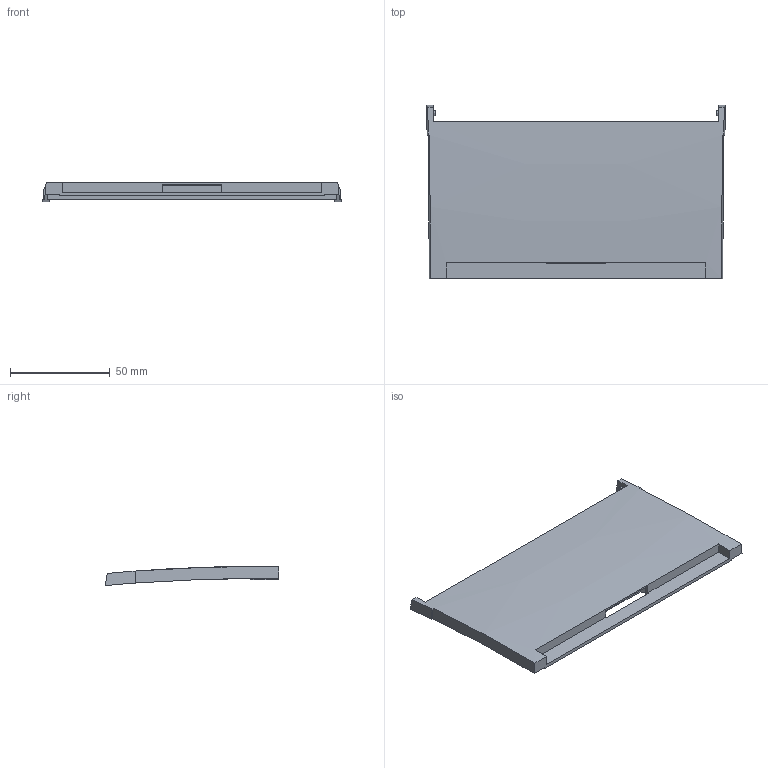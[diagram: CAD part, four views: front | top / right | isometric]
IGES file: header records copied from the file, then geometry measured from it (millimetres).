
Start section:  PTC IGES file: j4-du9-11k-cover1.igs
Global section: file name: j4-du9-11k-cover1.igs; native system: Creo Parametric by Parametric Technology Corporation; preprocessor: 2014310; author: JR20012; organization: Unknown; date: 20160927.133802; units: millimetre
Bounding box: 149.63 x 86.93 x 9.61 mm (x, y, z)
Volume: 21139.8 mm3; surface area: 28781.3 mm2
Topology: 1 solids, 1 shells, 52 faces, 141 edges, 92 vertices
Faces by surface type: bspline 52
